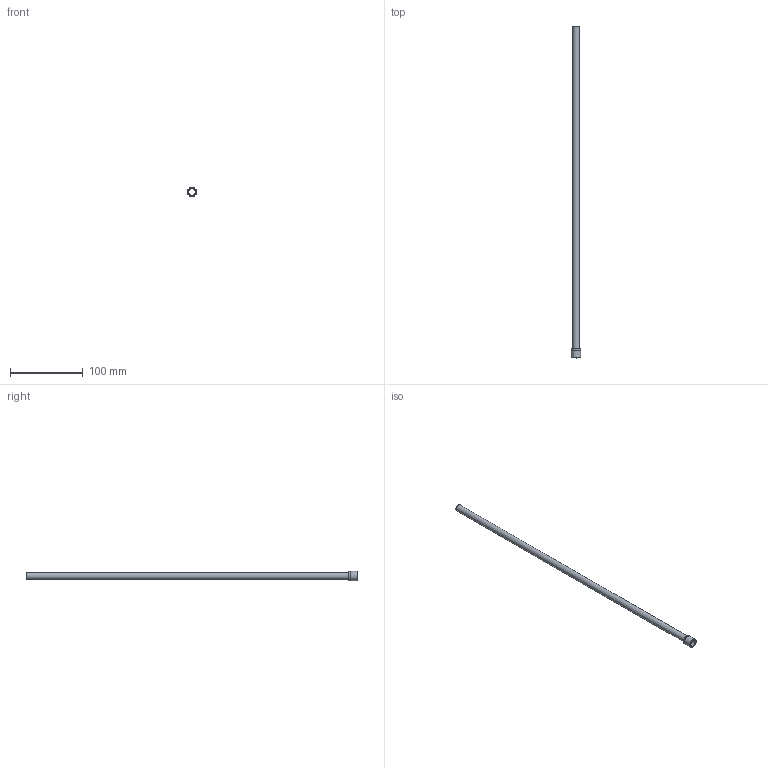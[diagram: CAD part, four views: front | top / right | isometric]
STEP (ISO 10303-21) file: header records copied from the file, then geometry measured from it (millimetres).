
FILE_DESCRIPTION(/* description */ (''),/* implementation_level */ '2;1');
FILE_NAME(/* name */ 'C:/Users/drich/Desktop/JHF375T-18 v1.step',/* time_stamp */ '2020-01-02T20:01:51-06:00',/* author */ (''),/* organization */ (''),/* preprocessor_version */ 'ST-DEVELOPER v18',/* originating_system */ 'Autodesk Translation Framework v8.12.0.6',/* authorisation */ '');
FILE_SCHEMA (('AUTOMOTIVE_DESIGN { 1 0 10303 214 3 1 1 }'));
Length unit declared in the file: inch
Products named in the file (1): JHF375T-18
Bounding box: 12.75 x 457.2 x 12.75 mm (x, y, z)
Volume: 4810.5 mm3; surface area: 25977.2 mm2
Topology: 1 solids, 1 shells, 10 faces, 24 edges, 18 vertices
Faces by surface type: cylinder 4, plane 4, cone 1, torus 1
Full cylindrical faces by diameter (mm): 8.636 x1, 9.271 x1, 12.598 x1, 12.751 x1
Entity records: 354 total; most frequent: DIRECTION 65, CARTESIAN_POINT 53, ORIENTED_EDGE 48, AXIS2_PLACEMENT_3D 30, EDGE_CURVE 24, CIRCLE 19, VERTEX_POINT 18, EDGE_LOOP 14
